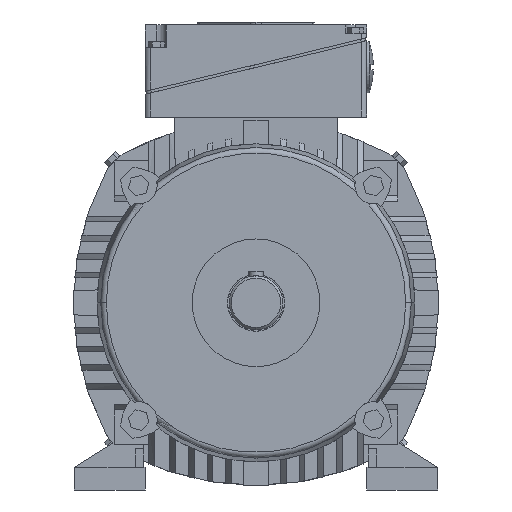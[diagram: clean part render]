
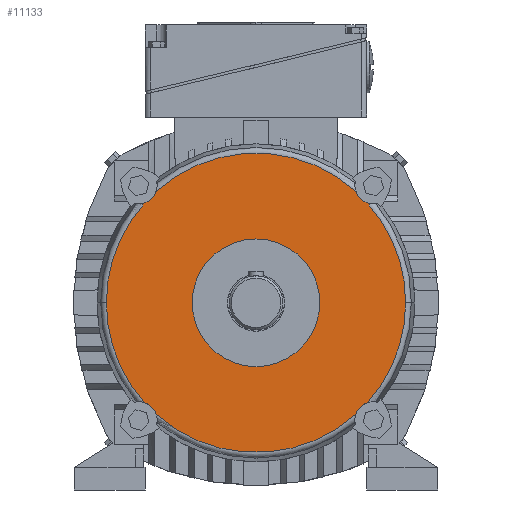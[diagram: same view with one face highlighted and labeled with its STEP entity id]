
A CAD part, front view. The second image highlights one B-rep face of the part: STEP entity #11133.
In plain terms, the highlighted planar face has unit normal (0, -1, 0).
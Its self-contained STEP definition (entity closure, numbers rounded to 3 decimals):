
#4193=VERTEX_POINT('',#11989);
#4213=EDGE_CURVE('',#4193,#10651,#12011,.T.);
#4295=VERTEX_POINT('',#12100);
#4297=EDGE_CURVE('',#5221,#5167,#12102,.T.);
#5167=VERTEX_POINT('',#13051);
#5221=VERTEX_POINT('',#13108);
#5563=VERTEX_POINT('',#13479);
#5843=EDGE_CURVE('',#7437,#5221,#13786,.T.);
#5963=EDGE_CURVE('',#9093,#8379,#13915,.T.);
#6191=EDGE_CURVE('',#5167,#6351,#14164,.T.);
#6351=VERTEX_POINT('',#14341);
#6611=EDGE_CURVE('',#8593,#9579,#14625,.T.);
#7411=EDGE_CURVE('',#4295,#8367,#15490,.T.);
#7437=VERTEX_POINT('',#15517);
#7467=EDGE_CURVE('',#10651,#8593,#15549,.T.);
#8323=EDGE_CURVE('',#9477,#4193,#16497,.T.);
#8367=VERTEX_POINT('',#16549);
#8379=VERTEX_POINT('',#16562);
#8593=VERTEX_POINT('',#16795);
#8705=EDGE_CURVE('',#10565,#7437,#16917,.T.);
#9039=EDGE_CURVE('',#9579,#9093,#17279,.T.);
#9093=VERTEX_POINT('',#17335);
#9385=EDGE_CURVE('',#8367,#4295,#17655,.T.);
#9477=VERTEX_POINT('',#17759);
#9579=VERTEX_POINT('',#17877);
#9783=EDGE_CURVE('',#10857,#5563,#18096,.T.);
#9899=EDGE_CURVE('',#8379,#10565,#18227,.T.);
#10383=EDGE_CURVE('',#5563,#9477,#18742,.T.);
#10485=EDGE_CURVE('',#6351,#10857,#18850,.T.);
#10565=VERTEX_POINT('',#18939);
#10651=VERTEX_POINT('',#19032);
#10857=VERTEX_POINT('',#19257);
#11133=ADVANCED_FACE('',(#19565,#19566),#19567,.T.);
#11989=CARTESIAN_POINT('',(70.397,-34.0,-78.625));
#12011=CIRCLE('',#20903,13.0);
#12100=CARTESIAN_POINT('',(-45.0,-34.0,0.));
#12102=CIRCLE('',#21050,13.0);
#13051=CARTESIAN_POINT('',(-78.625,-34.0,70.397));
#13108=CARTESIAN_POINT('',(-73.539,-34.0,73.539));
#13479=CARTESIAN_POINT('',(-73.539,-34.0,-73.539));
#13786=CIRCLE('',#24421,13.0);
#13915=CIRCLE('',#24669,13.0);
#14164=CIRCLE('',#25088,105.535);
#14341=CARTESIAN_POINT('',(-105.535,-34.0,0.));
#14625=CIRCLE('',#26153,105.535);
#15490=CIRCLE('',#27928,45.0);
#15517=CARTESIAN_POINT('',(-70.397,-34.0,78.625));
#15549=CIRCLE('',#28023,13.0);
#16497=CIRCLE('',#29653,105.535);
#16549=CARTESIAN_POINT('',(45.0,-34.0,0.));
#16562=CARTESIAN_POINT('',(73.539,-34.0,73.539));
#16795=CARTESIAN_POINT('',(78.625,-34.0,-70.397));
#16917=CIRCLE('',#30560,105.535);
#17279=CIRCLE('',#31204,105.535);
#17335=CARTESIAN_POINT('',(78.625,-34.0,70.397));
#17655=CIRCLE('',#32062,45.0);
#17759=CARTESIAN_POINT('',(-70.397,-34.0,-78.625));
#17877=CARTESIAN_POINT('',(105.535,-34.0,0.));
#18096=CIRCLE('',#32877,13.0);
#18227=CIRCLE('',#33123,13.0);
#18742=CIRCLE('',#34305,13.0);
#18850=CIRCLE('',#34503,105.535);
#18939=CARTESIAN_POINT('',(70.397,-34.0,78.625));
#19032=CARTESIAN_POINT('',(73.539,-34.0,-73.539));
#19257=CARTESIAN_POINT('',(-78.625,-34.0,-70.397));
#19565=FACE_OUTER_BOUND('',#35834,.T.);
#19566=FACE_BOUND('',#35835,.T.);
#19567=PLANE('',#35836);
#20903=AXIS2_PLACEMENT_3D('',#37194,#37195,#37196);
#21050=AXIS2_PLACEMENT_3D('',#37283,#37284,#37285);
#24421=AXIS2_PLACEMENT_3D('',#39209,#39210,#39211);
#24669=AXIS2_PLACEMENT_3D('',#39347,#39348,#39349);
#25088=AXIS2_PLACEMENT_3D('',#39589,#39590,#39591);
#26153=AXIS2_PLACEMENT_3D('',#40061,#40062,#40063);
#27928=AXIS2_PLACEMENT_3D('',#40923,#40924,#40925);
#28023=AXIS2_PLACEMENT_3D('',#40966,#40967,#40968);
#29653=AXIS2_PLACEMENT_3D('',#42072,#42073,#42074);
#30560=AXIS2_PLACEMENT_3D('',#42514,#42515,#42516);
#31204=AXIS2_PLACEMENT_3D('',#42879,#42880,#42881);
#32062=AXIS2_PLACEMENT_3D('',#43248,#43249,#43250);
#32877=AXIS2_PLACEMENT_3D('',#43735,#43736,#43737);
#33123=AXIS2_PLACEMENT_3D('',#43896,#43897,#43898);
#34305=AXIS2_PLACEMENT_3D('',#44304,#44305,#44306);
#34503=AXIS2_PLACEMENT_3D('',#44415,#44416,#44417);
#35834=EDGE_LOOP('',(#45197,#45198,#45199,#45200,#45201,#45202,#45203,#45204,#45205,#45206,#45207,#45208,#45209,#45210));
#35835=EDGE_LOOP('',(#45211,#45212));
#35836=AXIS2_PLACEMENT_3D('',#45213,#45214,#45215);
#37194=CARTESIAN_POINT('',(82.731,-34.0,-82.731));
#37195=DIRECTION('',(0.,1.0,0.0));
#37196=DIRECTION('',(0.707,0.,-0.707));
#37283=CARTESIAN_POINT('',(-82.731,-34.0,82.731));
#37284=DIRECTION('',(0.,1.0,0.0));
#37285=DIRECTION('',(-0.707,0.,0.707));
#39209=CARTESIAN_POINT('',(-82.731,-34.0,82.731));
#39210=DIRECTION('',(0.,1.0,0.0));
#39211=DIRECTION('',(-0.707,0.,0.707));
#39347=CARTESIAN_POINT('',(82.731,-34.0,82.731));
#39348=DIRECTION('',(0.,1.0,0.0));
#39349=DIRECTION('',(0.707,0.,0.707));
#39589=CARTESIAN_POINT('',(0.0,-34.0,0.0));
#39590=DIRECTION('',(0.0,-1.0,0.0));
#39591=DIRECTION('',(1.0,0.0,0.0));
#40061=CARTESIAN_POINT('',(0.0,-34.0,0.0));
#40062=DIRECTION('',(0.0,-1.0,0.0));
#40063=DIRECTION('',(1.0,0.0,0.0));
#40923=CARTESIAN_POINT('',(0.0,-34.0,0.0));
#40924=DIRECTION('',(0.,1.0,0.0));
#40925=DIRECTION('',(1.0,0.,0.0));
#40966=CARTESIAN_POINT('',(82.731,-34.0,-82.731));
#40967=DIRECTION('',(0.,1.0,0.0));
#40968=DIRECTION('',(0.707,0.,-0.707));
#42072=CARTESIAN_POINT('',(0.0,-34.0,0.0));
#42073=DIRECTION('',(0.0,-1.0,0.0));
#42074=DIRECTION('',(1.0,0.0,0.0));
#42514=CARTESIAN_POINT('',(0.0,-34.0,0.0));
#42515=DIRECTION('',(0.0,-1.0,0.0));
#42516=DIRECTION('',(1.0,0.0,0.0));
#42879=CARTESIAN_POINT('',(0.0,-34.0,0.0));
#42880=DIRECTION('',(0.0,-1.0,0.0));
#42881=DIRECTION('',(1.0,0.0,0.0));
#43248=CARTESIAN_POINT('',(0.0,-34.0,0.0));
#43249=DIRECTION('',(0.,1.0,0.0));
#43250=DIRECTION('',(1.0,0.,0.0));
#43735=CARTESIAN_POINT('',(-82.731,-34.0,-82.731));
#43736=DIRECTION('',(0.,1.0,0.0));
#43737=DIRECTION('',(-0.707,0.,-0.707));
#43896=CARTESIAN_POINT('',(82.731,-34.0,82.731));
#43897=DIRECTION('',(0.,1.0,0.0));
#43898=DIRECTION('',(0.707,0.,0.707));
#44304=CARTESIAN_POINT('',(-82.731,-34.0,-82.731));
#44305=DIRECTION('',(0.,1.0,0.0));
#44306=DIRECTION('',(-0.707,0.,-0.707));
#44415=CARTESIAN_POINT('',(0.0,-34.0,0.0));
#44416=DIRECTION('',(0.0,-1.0,0.0));
#44417=DIRECTION('',(1.0,0.0,0.0));
#45197=ORIENTED_EDGE('',*,*,#4213,.T.);
#45198=ORIENTED_EDGE('',*,*,#7467,.T.);
#45199=ORIENTED_EDGE('',*,*,#6611,.T.);
#45200=ORIENTED_EDGE('',*,*,#9039,.T.);
#45201=ORIENTED_EDGE('',*,*,#5963,.T.);
#45202=ORIENTED_EDGE('',*,*,#9899,.T.);
#45203=ORIENTED_EDGE('',*,*,#8705,.T.);
#45204=ORIENTED_EDGE('',*,*,#5843,.T.);
#45205=ORIENTED_EDGE('',*,*,#4297,.T.);
#45206=ORIENTED_EDGE('',*,*,#6191,.T.);
#45207=ORIENTED_EDGE('',*,*,#10485,.T.);
#45208=ORIENTED_EDGE('',*,*,#9783,.T.);
#45209=ORIENTED_EDGE('',*,*,#10383,.T.);
#45210=ORIENTED_EDGE('',*,*,#8323,.T.);
#45211=ORIENTED_EDGE('',*,*,#7411,.T.);
#45212=ORIENTED_EDGE('',*,*,#9385,.T.);
#45213=CARTESIAN_POINT('',(52.768,-34.0,0.0));
#45214=DIRECTION('',(0.,-1.0,0.0));
#45215=DIRECTION('',(1.0,0.,0.0));
